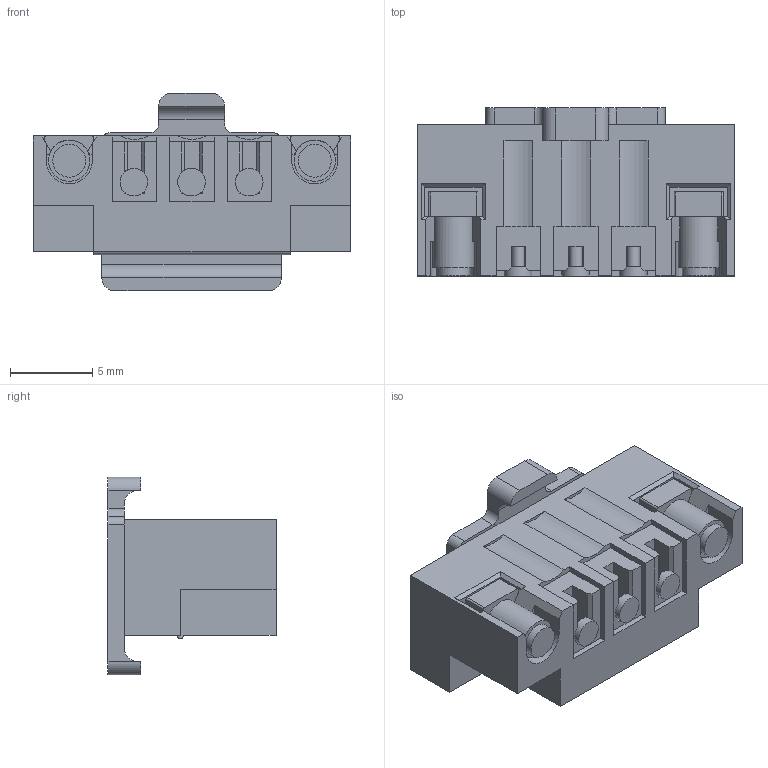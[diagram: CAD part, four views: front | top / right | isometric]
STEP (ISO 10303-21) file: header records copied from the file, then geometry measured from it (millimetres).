
FILE_DESCRIPTION((''),'2;1');
FILE_NAME('OQ031500D000G','2015-07-28T',('smart'),(''),'PRO/ENGINEER BY PARAMETRIC TECHNOLOGY CORPORATION, 2009440','PRO/ENGINEER BY PARAMETRIC TECHNOLOGY CORPORATION, 2009440','');
FILE_SCHEMA(('CONFIG_CONTROL_DESIGN'));
Length unit declared in the file: millimetre
Products named in the file (1): OQ031500D000G
Bounding box: 19.3 x 10.2 x 12 mm (x, y, z)
Volume: 777.9 mm3; surface area: 2064.2 mm2
Topology: 1 solids, 1 shells, 508 faces, 1472 edges, 958 vertices
Faces by surface type: plane 343, cylinder 84, bspline 39, cone 24, torus 18
Entity records: 17807 total; most frequent: CARTESIAN_POINT 4529, ORIENTED_EDGE 2944, DIRECTION 2595, EDGE_CURVE 1472, VERTEX_POINT 958, VECTOR 921, LINE 921, AXIS2_PLACEMENT_3D 837
